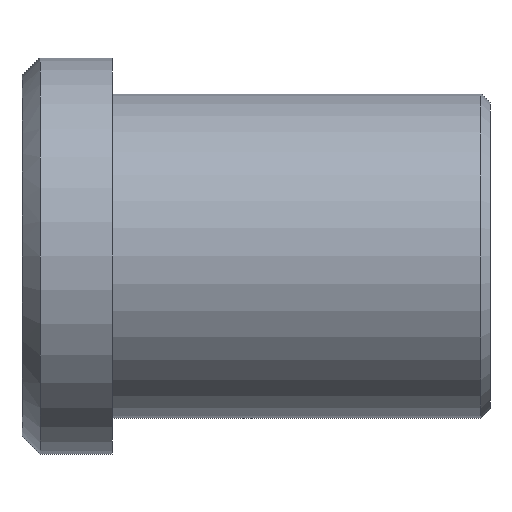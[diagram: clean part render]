
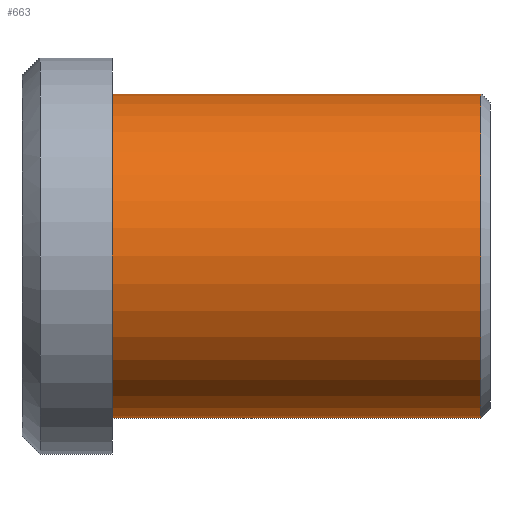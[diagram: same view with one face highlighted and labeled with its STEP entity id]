
A CAD part, front view. The second image highlights one B-rep face of the part: STEP entity #663.
In plain terms, the highlighted cylindrical face has radius 9 mm (diameter 18 mm), a partial arc.
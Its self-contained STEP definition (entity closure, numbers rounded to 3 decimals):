
#501=CARTESIAN_POINT('Vertex',(0.,0.,-9.)) ;
#506=CARTESIAN_POINT('Axis2P3D Location',(0.,0.,0.)) ;
#510=CARTESIAN_POINT('Vertex',(0.,-9.,0.)) ;
#513=CARTESIAN_POINT('Axis2P3D Location',(0.,0.,0.)) ;
#517=CARTESIAN_POINT('Vertex',(0.,0.,9.)) ;
#603=CARTESIAN_POINT('Line Origine',(21.,0.,9.)) ;
#607=CARTESIAN_POINT('Vertex',(20.5,0.,9.)) ;
#621=CARTESIAN_POINT('Vertex',(20.5,0.,-9.)) ;
#624=CARTESIAN_POINT('Line Origine',(21.,0.,-9.)) ;
#638=CARTESIAN_POINT('Axis2P3D Location',(21.,0.,0.)) ;
#643=CARTESIAN_POINT('Axis2P3D Location',(20.5,0.,0.)) ;
#647=CARTESIAN_POINT('Vertex',(20.5,-9.,0.)) ;
#650=CARTESIAN_POINT('Axis2P3D Location',(20.5,0.,0.)) ;
#507=DIRECTION('Axis2P3D Direction',(1.,0.,-0.)) ;
#514=DIRECTION('Axis2P3D Direction',(1.,0.,-0.)) ;
#604=DIRECTION('Vector Direction',(-1.,0.,0.)) ;
#625=DIRECTION('Vector Direction',(-1.,0.,0.)) ;
#639=DIRECTION('Axis2P3D Direction',(-1.,-0.,-0.)) ;
#640=DIRECTION('Axis2P3D XDirection',(0.,0.,-1.)) ;
#644=DIRECTION('Axis2P3D Direction',(-1.,-0.,-0.)) ;
#651=DIRECTION('Axis2P3D Direction',(-1.,-0.,-0.)) ;
#508=AXIS2_PLACEMENT_3D('Circle Axis2P3D',#506,#507,$) ;
#515=AXIS2_PLACEMENT_3D('Circle Axis2P3D',#513,#514,$) ;
#641=AXIS2_PLACEMENT_3D('Cylinder Axis2P3D',#638,#639,#640) ;
#645=AXIS2_PLACEMENT_3D('Circle Axis2P3D',#643,#644,$) ;
#652=AXIS2_PLACEMENT_3D('Circle Axis2P3D',#650,#651,$) ;
#656=ORIENTED_EDGE('',*,*,#628,.T.) ;
#657=ORIENTED_EDGE('',*,*,#649,.F.) ;
#658=ORIENTED_EDGE('',*,*,#654,.F.) ;
#659=ORIENTED_EDGE('',*,*,#609,.T.) ;
#660=ORIENTED_EDGE('',*,*,#519,.T.) ;
#661=ORIENTED_EDGE('',*,*,#512,.T.) ;
#605=VECTOR('Line Direction',#604,1.) ;
#626=VECTOR('Line Direction',#625,1.) ;
#663=ADVANCED_FACE('353-12X26',(#662),#642,.T.) ;
#509=CIRCLE('generated circle',#508,9.) ;
#516=CIRCLE('generated circle',#515,9.) ;
#646=CIRCLE('generated circle',#645,9.) ;
#653=CIRCLE('generated circle',#652,9.) ;
#642=CYLINDRICAL_SURFACE('generated cylinder',#641,9.) ;
#512=EDGE_CURVE('',#511,#502,#509,.T.) ;
#519=EDGE_CURVE('',#518,#511,#516,.T.) ;
#609=EDGE_CURVE('',#608,#518,#606,.T.) ;
#628=EDGE_CURVE('',#502,#622,#627,.F.) ;
#649=EDGE_CURVE('',#648,#622,#646,.F.) ;
#654=EDGE_CURVE('',#608,#648,#653,.F.) ;
#655=EDGE_LOOP('',(#656,#657,#658,#659,#660,#661)) ;
#662=FACE_OUTER_BOUND('',#655,.T.) ;
#606=LINE('Line',#603,#605) ;
#627=LINE('Line',#624,#626) ;
#502=VERTEX_POINT('',#501) ;
#511=VERTEX_POINT('',#510) ;
#518=VERTEX_POINT('',#517) ;
#608=VERTEX_POINT('',#607) ;
#622=VERTEX_POINT('',#621) ;
#648=VERTEX_POINT('',#647) ;
